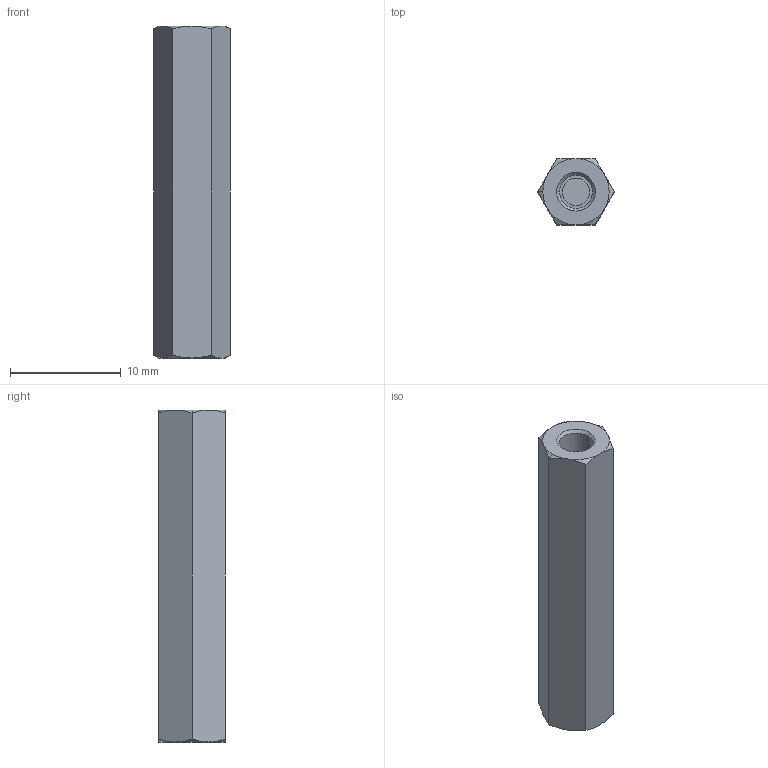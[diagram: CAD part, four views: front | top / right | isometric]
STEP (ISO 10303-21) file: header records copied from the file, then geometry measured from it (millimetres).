
FILE_DESCRIPTION (( 'STEP AP203' ), '1' );
FILE_NAME ('N0503.030-030-NP.step', '2025-02-27T14:41:43', ( '' ), ( '' ), 'SwSTEP 2.0', 'SolidWorks 2019', '' );
FILE_SCHEMA (( 'CONFIG_CONTROL_DESIGN' ));
Length unit declared in the file: millimetre
Products named in the file (1): N0503.030-030-NP
Bounding box: 6.93 x 6 x 30 mm (x, y, z)
Volume: 784.3 mm3; surface area: 881.4 mm2
Topology: 1 solids, 1 shells, 39 faces, 82 edges, 47 vertices
Faces by surface type: cone 20, plane 11, cylinder 8
Entity records: 1141 total; most frequent: CARTESIAN_POINT 263, DIRECTION 170, ORIENTED_EDGE 160, EDGE_CURVE 80, AXIS2_PLACEMENT_3D 74, VERTEX_POINT 47, EDGE_LOOP 43, FACE_OUTER_BOUND 39
